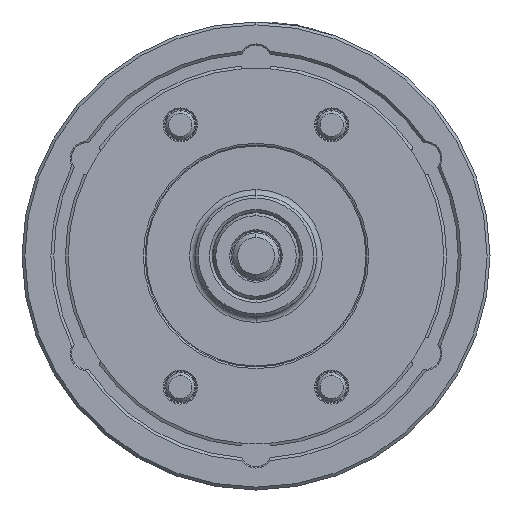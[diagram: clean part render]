
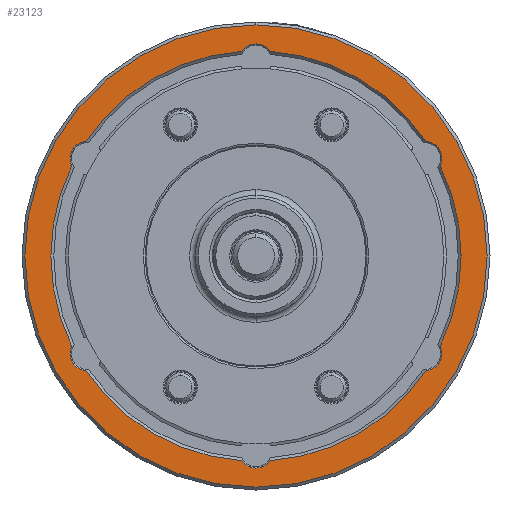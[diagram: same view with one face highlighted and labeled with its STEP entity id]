
A CAD part, left-side view. The second image highlights one B-rep face of the part: STEP entity #23123.
In plain terms, the highlighted planar face has unit normal (-1, 0, 0).
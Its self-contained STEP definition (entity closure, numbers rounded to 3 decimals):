
#427 = FACE_OUTER_BOUND ( 'NONE', #1728, .T. ) ;
#624 = ORIENTED_EDGE ( 'NONE', *, *, #40676, .F. ) ;
#746 = AXIS2_PLACEMENT_3D ( 'NONE', #8535, #36534, #12554 ) ;
#1204 = EDGE_CURVE ( 'NONE', #24364, #33338, #5992, .T. ) ;
#1430 = CIRCLE ( 'NONE', #6340, 71. ) ;
#1495 = VERTEX_POINT ( 'NONE', #51353 ) ;
#1728 = EDGE_LOOP ( 'NONE', ( #40340, #2605 ) ) ;
#2323 = ORIENTED_EDGE ( 'NONE', *, *, #14638, .F. ) ;
#2578 = DIRECTION ( 'NONE',  ( 1., 0., 0. ) ) ;
#2605 = ORIENTED_EDGE ( 'NONE', *, *, #19667, .F. ) ;
#3025 = CIRCLE ( 'NONE', #31278, 80. ) ;
#5807 = ORIENTED_EDGE ( 'NONE', *, *, #28182, .T. ) ;
#5880 = DIRECTION ( 'NONE',  ( 1., 0., 0. ) ) ;
#5897 = CARTESIAN_POINT ( 'NONE',  ( -77., 58.909, -39.633 ) ) ;
#5905 = CARTESIAN_POINT ( 'NONE',  ( -77., 0., -67.5 ) ) ;
#5992 = CIRCLE ( 'NONE', #44257, 71. ) ;
#6086 = VERTEX_POINT ( 'NONE', #51061 ) ;
#6340 = AXIS2_PLACEMENT_3D ( 'NONE', #40844, #16914, #44870 ) ;
#6578 = CARTESIAN_POINT ( 'NONE',  ( -77., 0., 67.5 ) ) ;
#8535 = CARTESIAN_POINT ( 'NONE',  ( -77., 58.457, 33.75 ) ) ;
#8834 = CARTESIAN_POINT ( 'NONE',  ( -77., 58.457, -33.75 ) ) ;
#9094 = DIRECTION ( 'NONE',  ( 0., 0., -1. ) ) ;
#9144 = DIRECTION ( 'NONE',  ( 1., 0., 0. ) ) ;
#9207 = CARTESIAN_POINT ( 'NONE',  ( -77., 0., 0. ) ) ;
#9329 = EDGE_CURVE ( 'NONE', #38324, #26693, #29792, .T. ) ;
#9755 = DIRECTION ( 'NONE',  ( 0., 0., 1. ) ) ;
#9777 = FACE_BOUND ( 'NONE', #38568, .T. ) ;
#9862 = DIRECTION ( 'NONE',  ( -1., 0., 0. ) ) ;
#9873 = CARTESIAN_POINT ( 'NONE',  ( -77., 0., 67.5 ) ) ;
#9942 = DIRECTION ( 'NONE',  ( 0., 0., 1. ) ) ;
#10289 = EDGE_CURVE ( 'NONE', #32883, #22352, #49100, .T. ) ;
#10597 = DIRECTION ( 'NONE',  ( 0., 0., 1. ) ) ;
#10901 = AXIS2_PLACEMENT_3D ( 'NONE', #35567, #11541, #39567 ) ;
#11541 = DIRECTION ( 'NONE',  ( 1., 0., 0. ) ) ;
#11543 = DIRECTION ( 'NONE',  ( 1., 0., 0. ) ) ;
#12037 = AXIS2_PLACEMENT_3D ( 'NONE', #45945, #21982, #49934 ) ;
#12543 = EDGE_CURVE ( 'NONE', #34490, #6086, #36421, .T. ) ;
#12554 = DIRECTION ( 'NONE',  ( 0., 0., 1. ) ) ;
#12850 = DIRECTION ( 'NONE',  ( 0., 0., 1. ) ) ;
#12983 = ORIENTED_EDGE ( 'NONE', *, *, #48814, .T. ) ;
#13492 = VERTEX_POINT ( 'NONE', #26702 ) ;
#13689 = EDGE_CURVE ( 'NONE', #13492, #33338, #24449, .T. ) ;
#14638 = EDGE_CURVE ( 'NONE', #1495, #44648, #16886, .T. ) ;
#14875 = CARTESIAN_POINT ( 'NONE',  ( -77., -4.868, -70.833 ) ) ;
#15141 = ORIENTED_EDGE ( 'NONE', *, *, #13689, .F. ) ;
#15153 = DIRECTION ( 'NONE',  ( 1., 0., 0. ) ) ;
#15419 = DIRECTION ( 'NONE',  ( -1., 0., 0. ) ) ;
#16886 = CIRCLE ( 'NONE', #746, 5.9 ) ;
#16914 = DIRECTION ( 'NONE',  ( 1., 0., 0. ) ) ;
#17317 = CIRCLE ( 'NONE', #42754, 5.9 ) ;
#17985 = CARTESIAN_POINT ( 'NONE',  ( -77., 0., 0. ) ) ;
#18610 = VERTEX_POINT ( 'NONE', #44198 ) ;
#18674 = ORIENTED_EDGE ( 'NONE', *, *, #24519, .T. ) ;
#19112 = CIRCLE ( 'NONE', #10901, 71. ) ;
#19574 = CARTESIAN_POINT ( 'NONE',  ( -77., 0., -80. ) ) ;
#19667 = EDGE_CURVE ( 'NONE', #18610, #39434, #38839, .T. ) ;
#20497 = AXIS2_PLACEMENT_3D ( 'NONE', #35569, #11543, #39570 ) ;
#21300 = ORIENTED_EDGE ( 'NONE', *, *, #34778, .F. ) ;
#21982 = DIRECTION ( 'NONE',  ( -1., 0., 0. ) ) ;
#21987 = DIRECTION ( 'NONE',  ( 0., 0., -1. ) ) ;
#22352 = VERTEX_POINT ( 'NONE', #28259 ) ;
#23123 = ADVANCED_FACE ( 'NONE', ( #9777, #427 ), #31311, .T. ) ;
#23795 = CARTESIAN_POINT ( 'NONE',  ( -77., -63.777, 31.2 ) ) ;
#24364 = VERTEX_POINT ( 'NONE', #50415 ) ;
#24443 = AXIS2_PLACEMENT_3D ( 'NONE', #33950, #33903, #33860 ) ;
#24449 = CIRCLE ( 'NONE', #27851, 5.9 ) ;
#24519 = EDGE_CURVE ( 'NONE', #38324, #6086, #19112, .T. ) ;
#26519 = CARTESIAN_POINT ( 'NONE',  ( -77., -58.909, -39.633 ) ) ;
#26565 = CARTESIAN_POINT ( 'NONE',  ( -77., 0., 0. ) ) ;
#26693 = VERTEX_POINT ( 'NONE', #49404 ) ;
#26702 = CARTESIAN_POINT ( 'NONE',  ( -77., 63.777, -31.2 ) ) ;
#27363 = VERTEX_POINT ( 'NONE', #14875 ) ;
#27396 = CARTESIAN_POINT ( 'NONE',  ( -77., 63.777, 31.2 ) ) ;
#27851 = AXIS2_PLACEMENT_3D ( 'NONE', #8834, #36838, #12850 ) ;
#28182 = EDGE_CURVE ( 'NONE', #32883, #27363, #1430, .T. ) ;
#28259 = CARTESIAN_POINT ( 'NONE',  ( -77., -63.777, -31.2 ) ) ;
#29360 = AXIS2_PLACEMENT_3D ( 'NONE', #47237, #15419, #43364 ) ;
#29792 = CIRCLE ( 'NONE', #51498, 5.9 ) ;
#29881 = CARTESIAN_POINT ( 'NONE',  ( -77., 0., 0. ) ) ;
#30601 = DIRECTION ( 'NONE',  ( 0., 0., -1. ) ) ;
#30773 = ORIENTED_EDGE ( 'NONE', *, *, #51368, .T. ) ;
#31278 = AXIS2_PLACEMENT_3D ( 'NONE', #17985, #45948, #21987 ) ;
#31311 = PLANE ( 'NONE',  #29360 ) ;
#31333 = EDGE_CURVE ( 'NONE', #39434, #18610, #3025, .T. ) ;
#32883 = VERTEX_POINT ( 'NONE', #26519 ) ;
#33025 = CIRCLE ( 'NONE', #20497, 71. ) ;
#33338 = VERTEX_POINT ( 'NONE', #5897 ) ;
#33860 = DIRECTION ( 'NONE',  ( 0., 0., 1. ) ) ;
#33900 = DIRECTION ( 'NONE',  ( 0., 0., -1. ) ) ;
#33903 = DIRECTION ( 'NONE',  ( -1., 0., 0. ) ) ;
#33922 = DIRECTION ( 'NONE',  ( -1., 0., 0. ) ) ;
#33950 = CARTESIAN_POINT ( 'NONE',  ( -77., -58.457, -33.75 ) ) ;
#34490 = VERTEX_POINT ( 'NONE', #23795 ) ;
#34593 = DIRECTION ( 'NONE',  ( -1., 0., 0. ) ) ;
#34778 = EDGE_CURVE ( 'NONE', #26693, #40249, #17317, .T. ) ;
#35567 = CARTESIAN_POINT ( 'NONE',  ( -77., 0., 0. ) ) ;
#35569 = CARTESIAN_POINT ( 'NONE',  ( -77., 0., 0. ) ) ;
#36421 = CIRCLE ( 'NONE', #12037, 5.9 ) ;
#36534 = DIRECTION ( 'NONE',  ( -1., 0., 0. ) ) ;
#36800 = ORIENTED_EDGE ( 'NONE', *, *, #10289, .F. ) ;
#36838 = DIRECTION ( 'NONE',  ( -1., 0., 0. ) ) ;
#37726 = ORIENTED_EDGE ( 'NONE', *, *, #41043, .T. ) ;
#38324 = VERTEX_POINT ( 'NONE', #48809 ) ;
#38568 = EDGE_LOOP ( 'NONE', ( #44777, #37726, #36800, #5807, #624, #47485, #15141, #30773, #2323, #12983, #21300, #47460, #18674 ) ) ;
#38839 = CIRCLE ( 'NONE', #40320, 80. ) ;
#39096 = CARTESIAN_POINT ( 'NONE',  ( -77., 0., 0. ) ) ;
#39434 = VERTEX_POINT ( 'NONE', #19574 ) ;
#39567 = DIRECTION ( 'NONE',  ( 0., 0., -1. ) ) ;
#39570 = DIRECTION ( 'NONE',  ( 0., 0., -1. ) ) ;
#40249 = VERTEX_POINT ( 'NONE', #47442 ) ;
#40320 = AXIS2_PLACEMENT_3D ( 'NONE', #29881, #5880, #33900 ) ;
#40340 = ORIENTED_EDGE ( 'NONE', *, *, #31333, .F. ) ;
#40676 = EDGE_CURVE ( 'NONE', #24364, #27363, #44478, .T. ) ;
#40844 = CARTESIAN_POINT ( 'NONE',  ( -77., 0., 0. ) ) ;
#41043 = EDGE_CURVE ( 'NONE', #34490, #22352, #46339, .T. ) ;
#42598 = AXIS2_PLACEMENT_3D ( 'NONE', #39096, #15153, #43121 ) ;
#42754 = AXIS2_PLACEMENT_3D ( 'NONE', #6578, #34593, #10597 ) ;
#43121 = DIRECTION ( 'NONE',  ( 0., 0., -1. ) ) ;
#43364 = DIRECTION ( 'NONE',  ( 0., 0., 1. ) ) ;
#44198 = CARTESIAN_POINT ( 'NONE',  ( -77., 0., 80. ) ) ;
#44257 = AXIS2_PLACEMENT_3D ( 'NONE', #9207, #9144, #9094 ) ;
#44478 = CIRCLE ( 'NONE', #46310, 5.9 ) ;
#44648 = VERTEX_POINT ( 'NONE', #27396 ) ;
#44777 = ORIENTED_EDGE ( 'NONE', *, *, #12543, .F. ) ;
#44870 = DIRECTION ( 'NONE',  ( 0., 0., -1. ) ) ;
#45945 = CARTESIAN_POINT ( 'NONE',  ( -77., -58.457, 33.75 ) ) ;
#45948 = DIRECTION ( 'NONE',  ( 1., 0., 0. ) ) ;
#46310 = AXIS2_PLACEMENT_3D ( 'NONE', #5905, #33922, #9942 ) ;
#46339 = CIRCLE ( 'NONE', #42598, 71. ) ;
#47237 = CARTESIAN_POINT ( 'NONE',  ( -77., 80., 0. ) ) ;
#47442 = CARTESIAN_POINT ( 'NONE',  ( -77., 4.868, 70.833 ) ) ;
#47460 = ORIENTED_EDGE ( 'NONE', *, *, #9329, .F. ) ;
#47485 = ORIENTED_EDGE ( 'NONE', *, *, #1204, .T. ) ;
#48809 = CARTESIAN_POINT ( 'NONE',  ( -77., -4.868, 70.833 ) ) ;
#48814 = EDGE_CURVE ( 'NONE', #1495, #40249, #49444, .T. ) ;
#49100 = CIRCLE ( 'NONE', #24443, 5.9 ) ;
#49404 = CARTESIAN_POINT ( 'NONE',  ( -77., 0., 73.4 ) ) ;
#49444 = CIRCLE ( 'NONE', #49889, 71. ) ;
#49889 = AXIS2_PLACEMENT_3D ( 'NONE', #26565, #2578, #30601 ) ;
#49934 = DIRECTION ( 'NONE',  ( 0., 0., 1. ) ) ;
#50415 = CARTESIAN_POINT ( 'NONE',  ( -77., 4.868, -70.833 ) ) ;
#51061 = CARTESIAN_POINT ( 'NONE',  ( -77., -58.909, 39.633 ) ) ;
#51353 = CARTESIAN_POINT ( 'NONE',  ( -77., 58.909, 39.633 ) ) ;
#51368 = EDGE_CURVE ( 'NONE', #13492, #44648, #33025, .T. ) ;
#51498 = AXIS2_PLACEMENT_3D ( 'NONE', #9873, #9862, #9755 ) ;
